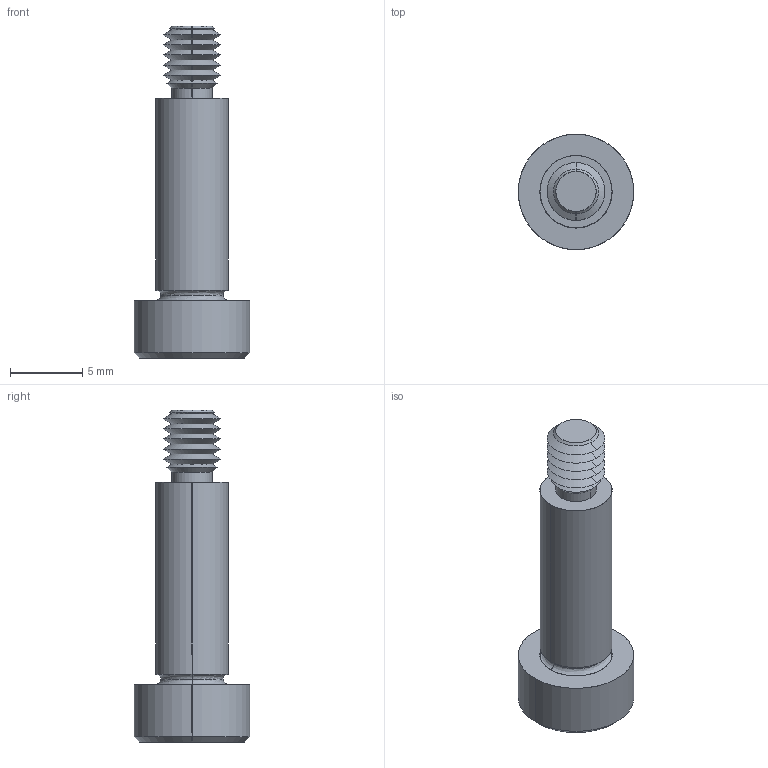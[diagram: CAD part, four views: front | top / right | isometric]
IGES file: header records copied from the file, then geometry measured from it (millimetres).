
Start section: SolidWorks IGES file using analytic representation for surfaces
Global section: file name: C:\Users\IanO\Documents\Temp Folder\GENERAL\SCREW REVISION\P0130_v2\P0130.T5_v2_20220106_IGES\P0130.050-014-T5.igs; native system: SolidWorks 2019; preprocessor: SolidWorks 2019; author: IanO; date: 220106.221531; units: millimetre
Bounding box: 8 x 8 x 23 mm (x, y, z)
Surface area: 535.9 mm2 (no closed solid volume)
Topology: 0 solids, 0 shells, 64 faces, 504 edges, 502 vertices
Faces by surface type: revolution 44, bspline 20
